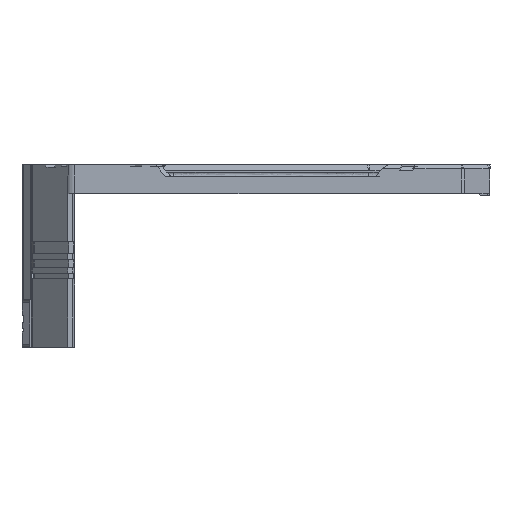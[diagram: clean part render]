
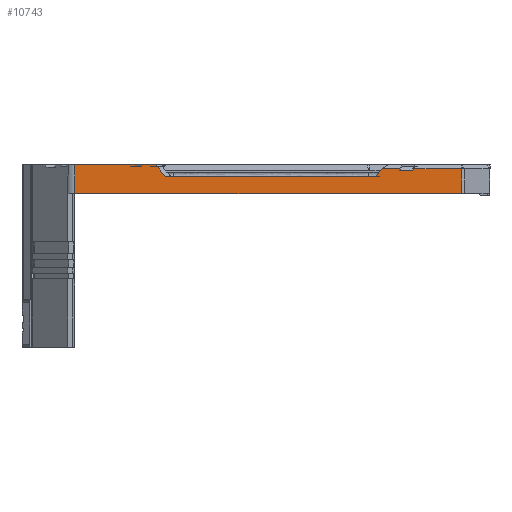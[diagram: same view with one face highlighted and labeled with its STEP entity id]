
A CAD part, left-side view. The second image highlights one B-rep face of the part: STEP entity #10743.
In plain terms, the highlighted planar face has unit normal (-1, 0, 0).
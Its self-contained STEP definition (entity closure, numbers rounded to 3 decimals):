
#1940=DIRECTION('',(0.,0.,-1.));
#1941=VECTOR('',#1940,7.4);
#1942=CARTESIAN_POINT('',(-165.,49.107,3.8));
#1943=LINE('',#1942,#1941);
#2016=DIRECTION('',(0.,1.,0.));
#2017=VECTOR('',#2016,1.837);
#2018=CARTESIAN_POINT('',(-165.,31.858,3.4));
#2019=LINE('',#2018,#2017);
#2990=DIRECTION('',(0.,0.,-1.));
#2991=VECTOR('',#2990,6.4);
#2992=CARTESIAN_POINT('',(-165.,-50.096,
2.8));
#2993=LINE('',#2992,#2991);
#2994=DIRECTION('',(0.,1.,0.));
#2995=VECTOR('',#2994,99.204);
#2996=CARTESIAN_POINT('',(-165.,-50.096,-3.6));
#2997=LINE('',#2996,#2995);
#2998=DIRECTION('',(0.,0.,1.));
#2999=VECTOR('',#2998,0.4);
#3000=CARTESIAN_POINT('',(-165.,31.858,3.4));
#3001=LINE('',#3000,#2999);
#3002=DIRECTION('',(0.,-0.647,-0.763));
#3003=VECTOR('',#3002,3.934);
#3004=CARTESIAN_POINT('',(-165.,28.364,3.8));
#3005=LINE('',#3004,#3003);
#3006=DIRECTION('',(0.,-1.,0.));
#3007=VECTOR('',#3006,53.914);
#3008=CARTESIAN_POINT('',(-165.,25.82,0.8));
#3009=LINE('',#3008,#3007);
#3010=DIRECTION('',(0.,-0.647,0.763));
#3011=VECTOR('',#3010,2.622);
#3012=CARTESIAN_POINT('',(-165.,-28.094,0.8));
#3013=LINE('',#3012,#3011);
#3014=DIRECTION('',(0.,-1.,0.));
#3015=VECTOR('',#3014,3.41);
#3016=CARTESIAN_POINT('',(-165.,-34.198,2.3));
#3017=LINE('',#3016,#3015);
#3018=DIRECTION('',(0.,0.,1.));
#3019=VECTOR('',#3018,0.5);
#3020=CARTESIAN_POINT('',(-165.,-37.608,2.3));
#3021=LINE('',#3020,#3019);
#3026=DIRECTION('',(0.,1.,0.));
#3027=VECTOR('',#3026,12.489);
#3028=CARTESIAN_POINT('',(-165.,-50.096,
2.8));
#3029=LINE('',#3028,#3027);
#3082=DIRECTION('',(0.,0.,1.));
#3083=VECTOR('',#3082,0.5);
#3084=CARTESIAN_POINT('',(-165.,-34.198,2.3));
#3085=LINE('',#3084,#3083);
#3110=DIRECTION('',(0.,1.,0.));
#3111=VECTOR('',#3110,4.408);
#3112=CARTESIAN_POINT('',(-165.,-34.198,2.8));
#3113=LINE('',#3112,#3111);
#3228=DIRECTION('',(0.,1.,0.));
#3229=VECTOR('',#3228,15.411);
#3230=CARTESIAN_POINT('',(-165.,33.696,3.8));
#3231=LINE('',#3230,#3229);
#3253=DIRECTION('',(0.,0.,1.));
#3254=VECTOR('',#3253,0.4);
#3255=CARTESIAN_POINT('',(-165.,33.696,3.4));
#3256=LINE('',#3255,#3254);
#3281=DIRECTION('',(0.,1.,0.));
#3282=VECTOR('',#3281,3.494);
#3283=CARTESIAN_POINT('',(-165.,28.364,3.8));
#3284=LINE('',#3283,#3282);
#6388=CARTESIAN_POINT('',(-165.,33.696,3.8));
#6389=VERTEX_POINT('',#6388);
#6390=CARTESIAN_POINT('',(-165.,49.107,3.8));
#6391=VERTEX_POINT('',#6390);
#6392=CARTESIAN_POINT('',(-165.,31.858,3.8));
#6394=VERTEX_POINT('',#6392);
#6402=CARTESIAN_POINT('',(-165.,28.364,3.8));
#6403=VERTEX_POINT('',#6402);
#6694=CARTESIAN_POINT('',(-165.,31.858,3.4));
#6695=VERTEX_POINT('',#6694);
#6696=CARTESIAN_POINT('',(-165.,33.696,3.4));
#6697=VERTEX_POINT('',#6696);
#6764=CARTESIAN_POINT('',(-165.,25.82,0.8));
#6765=VERTEX_POINT('',#6764);
#7004=CARTESIAN_POINT('',(-165.,-28.094,0.8));
#7005=VERTEX_POINT('',#7004);
#7127=CARTESIAN_POINT('',(-165.,49.107,-3.6));
#7128=VERTEX_POINT('',#7127);
#7129=CARTESIAN_POINT('',(-165.,-50.096,-3.6));
#7130=VERTEX_POINT('',#7129);
#7201=CARTESIAN_POINT('',(-165.,-50.096,
2.8));
#7202=CARTESIAN_POINT('',(-165.,-37.608,2.8));
#7203=VERTEX_POINT('',#7201);
#7204=VERTEX_POINT('',#7202);
#7205=CARTESIAN_POINT('',(-165.,-29.79,2.8));
#7206=VERTEX_POINT('',#7205);
#7207=CARTESIAN_POINT('',(-165.,-34.198,2.8));
#7208=VERTEX_POINT('',#7207);
#7209=CARTESIAN_POINT('',(-165.,-34.198,2.3));
#7210=VERTEX_POINT('',#7209);
#7211=CARTESIAN_POINT('',(-165.,-37.608,2.3));
#7212=VERTEX_POINT('',#7211);
#10709=CARTESIAN_POINT('',(-165.,50.101,1.4));
#10710=DIRECTION('',(-1.,0.,0.));
#10711=DIRECTION('',(0.,-1.,0.));
#10712=AXIS2_PLACEMENT_3D('',#10709,#10710,#10711);
#10713=PLANE('',#10712);
#10715=ORIENTED_EDGE('',*,*,#10714,.F.);
#10717=ORIENTED_EDGE('',*,*,#10716,.T.);
#10718=ORIENTED_EDGE('',*,*,#9488,.T.);
#10719=ORIENTED_EDGE('',*,*,#9510,.F.);
#10721=ORIENTED_EDGE('',*,*,#10720,.F.);
#10723=ORIENTED_EDGE('',*,*,#10722,.F.);
#10724=ORIENTED_EDGE('',*,*,#9579,.F.);
#10726=ORIENTED_EDGE('',*,*,#10725,.T.);
#10728=ORIENTED_EDGE('',*,*,#10727,.F.);
#10729=ORIENTED_EDGE('',*,*,#10700,.T.);
#10730=ORIENTED_EDGE('',*,*,#10482,.T.);
#10732=ORIENTED_EDGE('',*,*,#10731,.T.);
#10734=ORIENTED_EDGE('',*,*,#10733,.F.);
#10736=ORIENTED_EDGE('',*,*,#10735,.F.);
#10738=ORIENTED_EDGE('',*,*,#10737,.T.);
#10740=ORIENTED_EDGE('',*,*,#10739,.T.);
#10741=EDGE_LOOP('',(#10715,#10717,#10718,#10719,#10721,#10723,#10724,#10726,
#10728,#10729,#10730,#10732,#10734,#10736,#10738,#10740));
#10742=FACE_OUTER_BOUND('',#10741,.F.);
#10743=ADVANCED_FACE('',(#10742),#10713,.T.);
#9488=EDGE_CURVE('',#7130,#7128,#2997,.T.);
#9510=EDGE_CURVE('',#6391,#7128,#1943,.T.);
#9579=EDGE_CURVE('',#6695,#6697,#2019,.T.);
#10482=EDGE_CURVE('',#6765,#7005,#3009,.T.);
#10700=EDGE_CURVE('',#6403,#6765,#3005,.T.);
#10714=EDGE_CURVE('',#7203,#7204,#3029,.T.);
#10716=EDGE_CURVE('',#7203,#7130,#2993,.T.);
#10720=EDGE_CURVE('',#6389,#6391,#3231,.T.);
#10722=EDGE_CURVE('',#6697,#6389,#3256,.T.);
#10725=EDGE_CURVE('',#6695,#6394,#3001,.T.);
#10727=EDGE_CURVE('',#6403,#6394,#3284,.T.);
#10731=EDGE_CURVE('',#7005,#7206,#3013,.T.);
#10733=EDGE_CURVE('',#7208,#7206,#3113,.T.);
#10735=EDGE_CURVE('',#7210,#7208,#3085,.T.);
#10737=EDGE_CURVE('',#7210,#7212,#3017,.T.);
#10739=EDGE_CURVE('',#7212,#7204,#3021,.T.);
